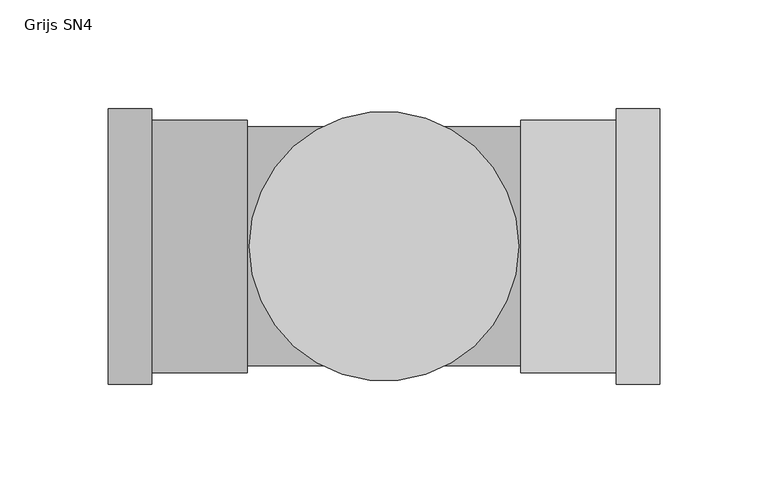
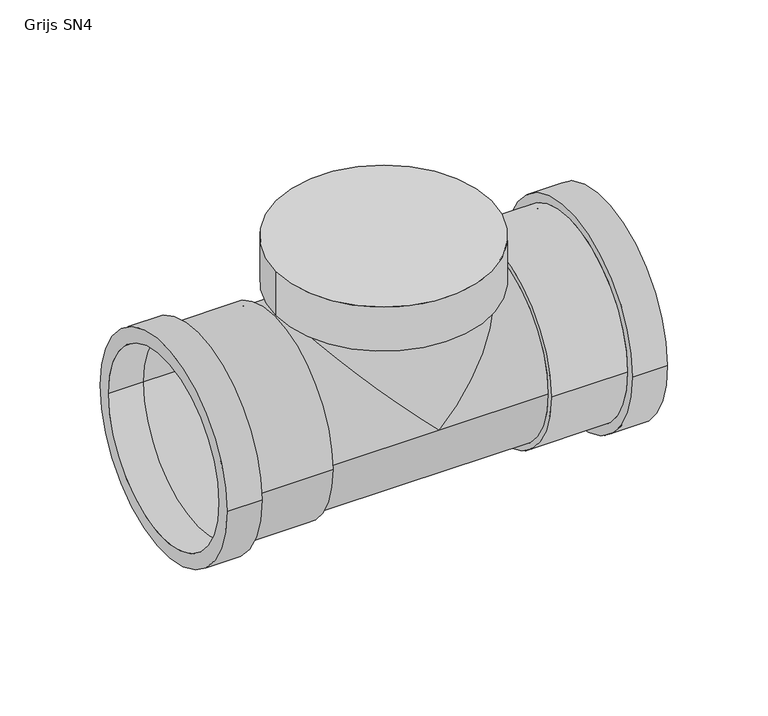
"""IFC4 building model written with IfcOpenShell, lengths in millimetres: pipe fitting geometry, NLRS_52_PIF_UN_SN4 SN8 ontstoppingsstuk 2FM_Dyka : Grijs SN4."""

from ifc_helpers import new_model, si_unit, point, frame, origin, origin_2d, place, context, project, spatial, polyline, circle_curve, ellipse_curve, trimmed, segment, composite_curve, outline, extrude, source, transform, mapped, element, save
from ifc_brep_helpers import plane_surface, cylinder_surface, revolved_surface, advanced_brep


def grijs_sn4_d284dd96(model_context):
    return source(origin(), model_context, "Body", "SolidModel", [
        advanced_brep(
        [(127.0, 63.5, 0.0), (127.0, -63.5, 0.0), (127.0, 55.0, 0.0), (127.0, -55.0, 0.0), (107.0, 55.0, 0.0), (107.0, -55.0, 0.0), (107.0, 63.5, 0.0), (107.0, -63.5, 0.0), (63.0, 58.2, 0.0), (63.0, -58.2, 0.0), (63.0, 55.0, 0.0), (63.0, -55.0, 0.0), (107.0, -58.2, 0.0), (107.0, 58.2, 0.0)],
        [
            (0, 1, circle_curve(frame((127.0, 0.0, 0.0), z_axis=(1.0, 0.0, 0.0), x_axis=(0.0, -1.0, 0.0)), 63.5)),
            (1, 0, circle_curve(frame((127.0, 0.0, 0.0), z_axis=(1.0, 0.0, 0.0), x_axis=(0.0, -1.0, 0.0)), 63.5)),
            (2, 3, circle_curve(frame((127.0, 0.0, 0.0), z_axis=(-1.0, 0.0, 0.0), x_axis=(0.0, -1.0, 0.0)), 55.0)),
            (3, 2, circle_curve(frame((127.0, 0.0, 0.0), z_axis=(-1.0, 0.0, 0.0), x_axis=(0.0, -1.0, 0.0)), 55.0)),
            (2, 4),
            (4, 5, circle_curve(frame((107.0, 0.0, 0.0), z_axis=(-1.0, 0.0, 0.0), x_axis=(0.0, -1.0, 0.0)), 55.0)),
            (5, 3),
            (5, 4, circle_curve(frame((107.0, 0.0, 0.0), z_axis=(-1.0, 0.0, 0.0), x_axis=(0.0, -1.0, 0.0)), 55.0)),
            (0, 6),
            (6, 7, circle_curve(frame((107.0, 0.0, 0.0), z_axis=(1.0, 0.0, 0.0), x_axis=(0.0, -1.0, 0.0)), 63.5)),
            (7, 1),
            (7, 6, circle_curve(frame((107.0, 0.0, 0.0), z_axis=(1.0, 0.0, 0.0), x_axis=(0.0, -1.0, 0.0)), 63.5)),
            (8, 9, circle_curve(frame((63.0, 0.0, 0.0), z_axis=(-1.0, 0.0, 0.0), x_axis=(0.0, -1.0, 0.0)), 58.2)),
            (9, 8, circle_curve(frame((63.0, 0.0, 0.0), z_axis=(-1.0, 0.0, 0.0), x_axis=(0.0, -1.0, 0.0)), 58.2)),
            (10, 11, circle_curve(frame((63.0, 0.0, 0.0), z_axis=(1.0, 0.0, 0.0), x_axis=(0.0, -1.0, 0.0)), 55.0)),
            (11, 10, circle_curve(frame((63.0, 0.0, 0.0), z_axis=(1.0, 0.0, 0.0), x_axis=(0.0, -1.0, 0.0)), 55.0)),
            (11, 5),
            (4, 10),
            (9, 12),
            (12, 13, circle_curve(frame((107.0, 0.0, 0.0), z_axis=(-1.0, 0.0, 0.0), x_axis=(0.0, -1.0, 0.0)), 58.2)),
            (13, 8),
            (13, 12, circle_curve(frame((107.0, 0.0, 0.0), z_axis=(-1.0, 0.0, 0.0), x_axis=(0.0, -1.0, 0.0)), 58.2)),
        ],
        [
            plane_surface(frame((127.0, -55.0, 0.0), z_axis=(1.0, 0.0, 0.0), x_axis=(0.0, 0.0, 1.0))),
            revolved_surface(polyline([(107.0, -55.0, 0.0), (127.0, -55.0, 0.0)]), (107.0, 0.0, 0.0), (-1.0, 0.0, 0.0)),
            cylinder_surface(frame((63.0, 0.0, 0.0), z_axis=(1.0, 0.0, 0.0), x_axis=(0.0, -1.0, 0.0)), 63.5),
            plane_surface(frame((63.0, -55.0, 0.0), z_axis=(-1.0, 0.0, 0.0), x_axis=(0.0, 0.0, -1.0))),
            revolved_surface(polyline([(63.0, -55.0, 0.0), (107.0, -55.0, 0.0)]), (63.0, 0.0, 0.0), (-1.0, 0.0, 0.0)),
            cylinder_surface(frame((63.0, 0.0, 0.0), z_axis=(1.0, 0.0, 0.0), x_axis=(0.0, -1.0, 0.0)), 58.2),
            plane_surface(frame((107.0, -55.0, 0.0), z_axis=(-1.0, 0.0, 0.0), x_axis=(0.0, 0.0, -1.0))),
        ],
        [
            (0, [[1, 2], [3, 4]]),
            (1, [[-3, 5, 6, 7]]),
            (1, [[-4, -7, 8, -5]]),
            (2, [[-1, 9, 10, 11]]),
            (2, [[-2, -11, 12, -9]]),
            (3, [[13, 14], [15, 16]]),
            (4, [[-16, 17, -6, 18]]),
            (4, [[-15, -18, -8, -17]]),
            (5, [[-14, 19, 20, 21]]),
            (5, [[-13, -21, 22, -19]]),
            (6, [[-12, -10], [-20, -22]]),
        ],
    ),
        advanced_brep(
        [(-127.0, -63.5, 0.0), (-127.0, 63.5, 0.0), (-127.0, -55.0, 0.0), (-127.0, 55.0, 0.0), (-107.0, -55.0, 0.0), (-107.0, 55.0, 0.0), (-107.0, -63.5, 0.0), (-107.0, 63.5, 0.0), (-63.0, -58.2, 0.0), (-63.0, 58.2, 0.0), (-63.0, -55.0, 0.0), (-63.0, 55.0, 0.0), (-107.0, 58.2, 0.0), (-107.0, -58.2, 0.0)],
        [
            (0, 1, circle_curve(frame((-127.0, 0.0, 0.0), z_axis=(-1.0, 0.0, 0.0), x_axis=(0.0, 1.0, 0.0)), 63.5)),
            (1, 0, circle_curve(frame((-127.0, 0.0, 0.0), z_axis=(-1.0, 0.0, 0.0), x_axis=(0.0, 1.0, 0.0)), 63.5)),
            (2, 3, circle_curve(frame((-127.0, 0.0, 0.0), z_axis=(1.0, 0.0, 0.0), x_axis=(0.0, 1.0, 0.0)), 55.0)),
            (3, 2, circle_curve(frame((-127.0, 0.0, 0.0), z_axis=(1.0, 0.0, 0.0), x_axis=(0.0, 1.0, 0.0)), 55.0)),
            (2, 4),
            (4, 5, circle_curve(frame((-107.0, 0.0, 0.0), z_axis=(1.0, 0.0, 0.0), x_axis=(0.0, 1.0, 0.0)), 55.0)),
            (5, 3),
            (5, 4, circle_curve(frame((-107.0, 0.0, 0.0), z_axis=(1.0, 0.0, 0.0), x_axis=(0.0, 1.0, 0.0)), 55.0)),
            (0, 6),
            (6, 7, circle_curve(frame((-107.0, 0.0, 0.0), z_axis=(-1.0, 0.0, 0.0), x_axis=(0.0, 1.0, 0.0)), 63.5)),
            (7, 1),
            (7, 6, circle_curve(frame((-107.0, 0.0, 0.0), z_axis=(-1.0, 0.0, 0.0), x_axis=(0.0, 1.0, 0.0)), 63.5)),
            (8, 9, circle_curve(frame((-63.0, 0.0, 0.0), z_axis=(1.0, 0.0, 0.0), x_axis=(0.0, 1.0, 0.0)), 58.2)),
            (9, 8, circle_curve(frame((-63.0, 0.0, 0.0), z_axis=(1.0, 0.0, 0.0), x_axis=(0.0, 1.0, 0.0)), 58.2)),
            (10, 11, circle_curve(frame((-63.0, 0.0, 0.0), z_axis=(-1.0, 0.0, 0.0), x_axis=(0.0, 1.0, 0.0)), 55.0)),
            (11, 10, circle_curve(frame((-63.0, 0.0, 0.0), z_axis=(-1.0, 0.0, 0.0), x_axis=(0.0, 1.0, 0.0)), 55.0)),
            (11, 5),
            (4, 10),
            (9, 12),
            (12, 13, circle_curve(frame((-107.0, 0.0, 0.0), z_axis=(1.0, 0.0, 0.0), x_axis=(0.0, 1.0, 0.0)), 58.2)),
            (13, 8),
            (13, 12, circle_curve(frame((-107.0, 0.0, 0.0), z_axis=(1.0, 0.0, 0.0), x_axis=(0.0, 1.0, 0.0)), 58.2)),
        ],
        [
            plane_surface(frame((-127.0, 55.0, 0.0), z_axis=(-1.0, 0.0, 0.0), x_axis=(0.0, 0.0, 1.0))),
            revolved_surface(polyline([(-107.0, 55.0, 0.0), (-127.0, 55.0, 0.0)]), (-107.0, 0.0, 0.0), (1.0, 0.0, 0.0)),
            cylinder_surface(frame((-63.0, 0.0, 0.0), z_axis=(-1.0, 0.0, 0.0), x_axis=(0.0, 1.0, 0.0)), 63.5),
            plane_surface(frame((-63.0, 55.0, 0.0), z_axis=(1.0, 0.0, 0.0), x_axis=(0.0, 0.0, -1.0))),
            revolved_surface(polyline([(-63.0, 55.0, 0.0), (-107.0, 55.0, 0.0)]), (-63.0, 0.0, 0.0), (1.0, 0.0, 0.0)),
            cylinder_surface(frame((-63.0, 0.0, 0.0), z_axis=(-1.0, 0.0, 0.0), x_axis=(0.0, 1.0, 0.0)), 58.2),
            plane_surface(frame((-107.0, 55.0, 0.0), z_axis=(1.0, 0.0, 0.0), x_axis=(0.0, 0.0, -1.0))),
        ],
        [
            (0, [[1, 2], [3, 4]]),
            (1, [[-3, 5, 6, 7]]),
            (1, [[-4, -7, 8, -5]]),
            (2, [[-1, 9, 10, 11]]),
            (2, [[-2, -11, 12, -9]]),
            (3, [[13, 14], [15, 16]]),
            (4, [[-16, 17, -6, 18]]),
            (4, [[-15, -18, -8, -17]]),
            (5, [[-14, 19, 20, 21]]),
            (5, [[-13, -21, 22, -19]]),
            (6, [[-12, -10], [-20, -22]]),
        ],
    ),
        advanced_brep(
        [(0.0, -55.0, 0.0), (-55.0, 0.0, 55.0), (0.0, 55.0, 0.0), (55.0, 0.0, 55.0), (55.0, 0.0, 58.2), (-55.0, 0.0, 58.2)],
        [
            (0, 1, ellipse_curve(frame((0.0, 0.0, 0.0), z_axis=(-0.7071067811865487, 0.0, -0.7071067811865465), x_axis=(0.7071067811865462, 0.0, -0.7071067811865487)), 77.7817459, 55.0)),
            (1, 2, ellipse_curve(frame((0.0, 0.0, 0.0), z_axis=(-0.7071067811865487, 0.0, -0.7071067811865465), x_axis=(0.7071067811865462, 0.0, -0.7071067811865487)), 77.7817459, 55.0)),
            (2, 3, ellipse_curve(frame((0.0, 0.0, 0.0), z_axis=(0.7071067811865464, 0.0, -0.7071067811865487), x_axis=(0.7071067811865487, 0.0, 0.7071067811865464)), 77.7817459, 55.0)),
            (3, 0, ellipse_curve(frame((0.0, 0.0, 0.0), z_axis=(0.7071067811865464, 0.0, -0.7071067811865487), x_axis=(0.7071067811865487, 0.0, 0.7071067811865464)), 77.7817459, 55.0)),
            (4, 5, circle_curve(frame((0.0, 0.0, 58.2), z_axis=(0.0, 0.0, 1.0), x_axis=(-1.0, 0.0, 0.0)), 55.0)),
            (5, 4, circle_curve(frame((0.0, 0.0, 58.2), z_axis=(0.0, 0.0, 1.0), x_axis=(-1.0, 0.0, 0.0)), 55.0)),
            (5, 1),
            (3, 4),
        ],
        [
            revolved_surface(polyline([(55.0, -55.0, 0.0), (-55.0, -55.0, 0.0)]), (-127.0, 0.0, 0.0), (1.0, 0.0, 0.0)),
            plane_surface(frame((0.0, 0.0, 58.2), z_axis=(0.0, 0.0, 1.0), x_axis=(0.0, -1.0, 0.0))),
            cylinder_surface(frame((0.0, 0.0, 0.0), z_axis=(0.0, 0.0, -1.0), x_axis=(-1.0, 0.0, 0.0)), 55.0),
        ],
        [
            (0, [[1, 2, 3, 4]]),
            (1, [[5, 6]]),
            (2, [[-6, 7, -1, -4, 8]]),
            (2, [[-5, -8, -3, -2, -7]]),
        ],
    ),
        extrude(outline(composite_curve([segment(trimmed(circle_curve(origin_2d(), 62.0), [point((62.0, 0.0))], [point((-62.0, 0.0))], False, "CARTESIAN"), True, "CONTINUOUS"), segment(trimmed(circle_curve(origin_2d(), 62.0), [point((-62.0, 0.0))], [point((62.0, 0.0))], False, "CARTESIAN"), True, "CONTINUOUS")], self_intersect=False)), frame((0.0, 0.0, 58.2), z_axis=(0.0, 0.0, 1.0), x_axis=(1.0, 0.0, 0.0)), (0.0, 0.0, 1.0), 26.8),
        extrude(outline(composite_curve([segment(trimmed(circle_curve(origin_2d(), 55.0), [point((-55.0, 0.0))], [point((55.0, 0.0))], False, "CARTESIAN"), True, "CONTINUOUS"), segment(trimmed(circle_curve(origin_2d(), 55.0), [point((55.0, 0.0))], [point((-55.0, 0.0))], False, "CARTESIAN"), True, "CONTINUOUS")], self_intersect=False)), frame((-63.0, 0.0, 0.0), z_axis=(1.0, 0.0, 0.0), x_axis=(0.0, 1.0, 0.0)), (0.0, 0.0, 1.0), 126.0),
    ])


if __name__ == "__main__":
    model = new_model("IFC4")
    model_context = context("Model", 3, world=origin())
    ifc_project = project(units=[si_unit("LENGTHUNIT", "METRE", prefix="MILLI")], contexts=[model_context])
    site = spatial("IfcSite", under=ifc_project)
    building = spatial("IfcBuilding", under=site)
    placement = place(None, origin())
    grijs_sn4_shape = grijs_sn4_d284dd96(model_context)
    element("IfcPipeFitting", 1, ObjectType="NLRS_52_PIF_UN_SN4 SN8 ontstoppingsstuk 2FM_Dyka : Grijs SN4", at=placement, inside=building, context=model_context, shape_type="MappedRepresentation", body=[
        mapped(grijs_sn4_shape, transform((0.0, 0.0, 0.0), x_axis=(1.0, 0.0, 0.0), y_axis=(0.0, 1.0, 0.0), z_axis=(0.0, 0.0, 1.0))),
    ])
    save(model, "model.ifc")
